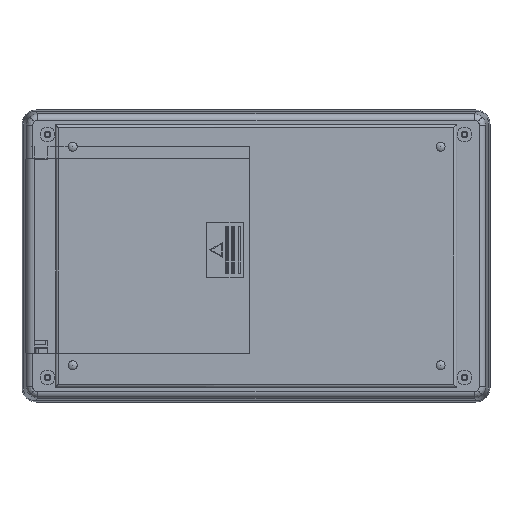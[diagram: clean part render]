
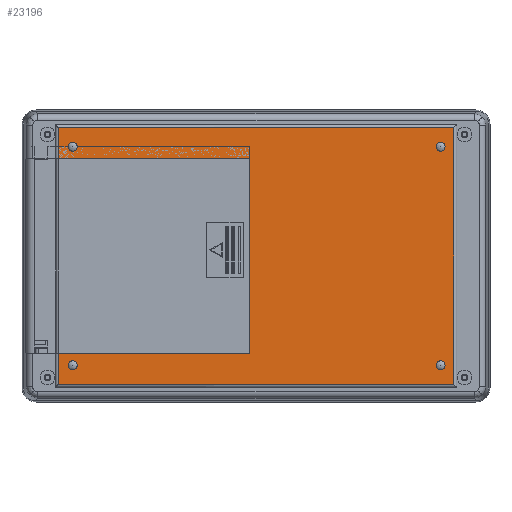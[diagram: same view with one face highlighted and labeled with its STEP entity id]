
A CAD part, front view. The second image highlights one B-rep face of the part: STEP entity #23196.
In plain terms, the highlighted planar face has unit normal (0, -1, 0).
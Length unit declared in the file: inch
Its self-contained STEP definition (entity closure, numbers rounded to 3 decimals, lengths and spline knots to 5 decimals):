
#521 = CARTESIAN_POINT ( 'NONE',  ( 2.27953, -0.70866, 1.29528 ) ) ;
#765 = DIRECTION ( 'NONE',  ( 0., 0., -1. ) ) ;
#800 = DIRECTION ( 'NONE',  ( 0., -1., 0. ) ) ;
#819 = CARTESIAN_POINT ( 'NONE',  ( -2.26378, -0.70866, -1.40551 ) ) ;
#995 = VERTEX_POINT ( 'NONE', #5732 ) ;
#1100 = EDGE_CURVE ( 'NONE', #2198, #5810, #13270, .T. ) ;
#1376 = ORIENTED_EDGE ( 'NONE', *, *, #15521, .T. ) ;
#1444 = EDGE_CURVE ( 'NONE', #21828, #11364, #21151, .T. ) ;
#1674 = CARTESIAN_POINT ( 'NONE',  ( -2.48031, -0.70866, 1.62402 ) ) ;
#1714 = ORIENTED_EDGE ( 'NONE', *, *, #15864, .F. ) ;
#1846 = EDGE_CURVE ( 'NONE', #13792, #6693, #3573, .T. ) ;
#2186 = DIRECTION ( 'NONE',  ( 1., 0., 0. ) ) ;
#2198 = VERTEX_POINT ( 'NONE', #15736 ) ;
#2284 = EDGE_LOOP ( 'NONE', ( #26576, #6337 ) ) ;
#2467 = ORIENTED_EDGE ( 'NONE', *, *, #27206, .F. ) ;
#2513 = VECTOR ( 'NONE', #10500, 39.37008 ) ;
#2760 = ORIENTED_EDGE ( 'NONE', *, *, #15145, .F. ) ;
#2804 = CARTESIAN_POINT ( 'NONE',  ( 2.48031, -0.70866, -1.58465 ) ) ;
#2941 = EDGE_CURVE ( 'NONE', #26413, #17128, #8114, .T. ) ;
#3124 = LINE ( 'NONE', #16860, #24994 ) ;
#3195 = EDGE_CURVE ( 'NONE', #11364, #2198, #13391, .T. ) ;
#3248 = CARTESIAN_POINT ( 'NONE',  ( -2.44094, -0.70866, 1.20079 ) ) ;
#3573 = CIRCLE ( 'NONE', #8840, 0.05512 ) ;
#3863 = FACE_BOUND ( 'NONE', #2284, .T. ) ;
#3885 = CARTESIAN_POINT ( 'NONE',  ( -2.44094, -0.70866, 1.58465 ) ) ;
#3926 = CARTESIAN_POINT ( 'NONE',  ( -2.26378, -0.70866, 1.35039 ) ) ;
#4186 = DIRECTION ( 'NONE',  ( 0., 0., -1. ) ) ;
#4190 = CIRCLE ( 'NONE', #8161, 0.05512 ) ;
#4590 = CARTESIAN_POINT ( 'NONE',  ( 2.27953, -0.70866, -1.35039 ) ) ;
#4952 = DIRECTION ( 'NONE',  ( 1., 0., 0. ) ) ;
#5386 = CIRCLE ( 'NONE', #24857, 0.05512 ) ;
#5415 = EDGE_CURVE ( 'NONE', #17128, #26406, #19832, .T. ) ;
#5547 = AXIS2_PLACEMENT_3D ( 'NONE', #4590, #19406, #6692 ) ;
#5569 = EDGE_CURVE ( 'NONE', #19947, #995, #5893, .T. ) ;
#5732 = CARTESIAN_POINT ( 'NONE',  ( 2.27953, -0.70866, 1.40551 ) ) ;
#5759 = CARTESIAN_POINT ( 'NONE',  ( -2.48031, -0.70866, 1.58465 ) ) ;
#5810 = VERTEX_POINT ( 'NONE', #3248 ) ;
#5893 = CIRCLE ( 'NONE', #13753, 0.05512 ) ;
#5898 = PLANE ( 'NONE',  #8649 ) ;
#5915 = CARTESIAN_POINT ( 'NONE',  ( -2.26378, -0.70866, -1.35039 ) ) ;
#5930 = ORIENTED_EDGE ( 'NONE', *, *, #5415, .T. ) ;
#5988 = CIRCLE ( 'NONE', #9253, 0.05512 ) ;
#6005 = CIRCLE ( 'NONE', #22859, 0.05512 ) ;
#6024 = DIRECTION ( 'NONE',  ( 0., 0., -1. ) ) ;
#6085 = CARTESIAN_POINT ( 'NONE',  ( 2.44094, -0.70866, -1.58465 ) ) ;
#6337 = ORIENTED_EDGE ( 'NONE', *, *, #5569, .F. ) ;
#6523 = ORIENTED_EDGE ( 'NONE', *, *, #3195, .F. ) ;
#6670 = CARTESIAN_POINT ( 'NONE',  ( 2.27953, -0.70866, 1.35039 ) ) ;
#6692 = DIRECTION ( 'NONE',  ( 0., 0., -1. ) ) ;
#6693 = VERTEX_POINT ( 'NONE', #16486 ) ;
#7041 = VECTOR ( 'NONE', #4952, 39.37008 ) ;
#7203 = VECTOR ( 'NONE', #2186, 39.37008 ) ;
#7617 = DIRECTION ( 'NONE',  ( 0., -1., 0. ) ) ;
#8004 = DIRECTION ( 'NONE',  ( 0., -1., 0. ) ) ;
#8026 = DIRECTION ( 'NONE',  ( 0., 0., -1. ) ) ;
#8114 = LINE ( 'NONE', #23216, #2513 ) ;
#8118 = CARTESIAN_POINT ( 'NONE',  ( 2.27953, -0.70866, -1.40551 ) ) ;
#8161 = AXIS2_PLACEMENT_3D ( 'NONE', #24987, #12263, #27099 ) ;
#8306 = DIRECTION ( 'NONE',  ( -1., 0., 0. ) ) ;
#8424 = VECTOR ( 'NONE', #23323, 39.37008 ) ;
#8649 = AXIS2_PLACEMENT_3D ( 'NONE', #1674, #8004, #22846 ) ;
#8790 = DIRECTION ( 'NONE',  ( 0., 0., -1. ) ) ;
#8840 = AXIS2_PLACEMENT_3D ( 'NONE', #3926, #18732, #6024 ) ;
#9253 = AXIS2_PLACEMENT_3D ( 'NONE', #5915, #20756, #8026 ) ;
#9948 = CARTESIAN_POINT ( 'NONE',  ( -2.44094, -0.70866, -1.58465 ) ) ;
#9988 = ORIENTED_EDGE ( 'NONE', *, *, #13369, .F. ) ;
#10121 = FACE_OUTER_BOUND ( 'NONE', #15751, .T. ) ;
#10412 = LINE ( 'NONE', #24037, #27332 ) ;
#10500 = DIRECTION ( 'NONE',  ( 0., 0., 1. ) ) ;
#10562 = CARTESIAN_POINT ( 'NONE',  ( -0.07874, -0.70866, -1.20079 ) ) ;
#10600 = CARTESIAN_POINT ( 'NONE',  ( -0.07874, -0.70866, -1.20079 ) ) ;
#10607 = CARTESIAN_POINT ( 'NONE',  ( -0.07874, -0.70866, -1.20079 ) ) ;
#11364 = VERTEX_POINT ( 'NONE', #10600 ) ;
#11512 = ORIENTED_EDGE ( 'NONE', *, *, #25121, .F. ) ;
#12263 = DIRECTION ( 'NONE',  ( 0., -1., 0. ) ) ;
#12651 = LINE ( 'NONE', #2804, #7041 ) ;
#12871 = CARTESIAN_POINT ( 'NONE',  ( -2.26378, -0.70866, 1.40551 ) ) ;
#13270 = LINE ( 'NONE', #27294, #18278 ) ;
#13369 = EDGE_CURVE ( 'NONE', #26724, #14892, #6005, .T. ) ;
#13391 = LINE ( 'NONE', #10607, #8424 ) ;
#13411 = DIRECTION ( 'NONE',  ( 0., -1., 0. ) ) ;
#13443 = CARTESIAN_POINT ( 'NONE',  ( -2.26378, -0.70866, -1.35039 ) ) ;
#13753 = AXIS2_PLACEMENT_3D ( 'NONE', #6670, #21511, #8790 ) ;
#13792 = VERTEX_POINT ( 'NONE', #12871 ) ;
#14160 = VECTOR ( 'NONE', #24837, 39.37008 ) ;
#14203 = EDGE_CURVE ( 'NONE', #995, #19947, #22462, .T. ) ;
#14892 = VERTEX_POINT ( 'NONE', #22571 ) ;
#15064 = ORIENTED_EDGE ( 'NONE', *, *, #1444, .F. ) ;
#15085 = FACE_BOUND ( 'NONE', #22739, .T. ) ;
#15145 = EDGE_CURVE ( 'NONE', #24320, #20858, #4190, .T. ) ;
#15521 = EDGE_CURVE ( 'NONE', #26406, #5810, #10412, .T. ) ;
#15577 = DIRECTION ( 'NONE',  ( 0., 0., -1. ) ) ;
#15736 = CARTESIAN_POINT ( 'NONE',  ( -0.07874, -0.70866, 1.20079 ) ) ;
#15751 = EDGE_LOOP ( 'NONE', ( #26805, #6523, #15064, #21639, #25071, #25840, #5930, #1376 ) ) ;
#15864 = EDGE_CURVE ( 'NONE', #20858, #24320, #18065, .T. ) ;
#16029 = CARTESIAN_POINT ( 'NONE',  ( 2.44094, -0.70866, 1.58465 ) ) ;
#16305 = EDGE_CURVE ( 'NONE', #21828, #17816, #3124, .T. ) ;
#16486 = CARTESIAN_POINT ( 'NONE',  ( -2.26378, -0.70866, 1.29528 ) ) ;
#16860 = CARTESIAN_POINT ( 'NONE',  ( -2.44094, -0.70866, -1.62402 ) ) ;
#16968 = EDGE_CURVE ( 'NONE', #17816, #26413, #12651, .T. ) ;
#17128 = VERTEX_POINT ( 'NONE', #16029 ) ;
#17816 = VERTEX_POINT ( 'NONE', #9948 ) ;
#17918 = AXIS2_PLACEMENT_3D ( 'NONE', #26108, #13411, #765 ) ;
#18065 = CIRCLE ( 'NONE', #5547, 0.05512 ) ;
#18278 = VECTOR ( 'NONE', #8306, 39.37008 ) ;
#18732 = DIRECTION ( 'NONE',  ( 0., -1., 0. ) ) ;
#19406 = DIRECTION ( 'NONE',  ( 0., -1., 0. ) ) ;
#19832 = LINE ( 'NONE', #5759, #14160 ) ;
#19947 = VERTEX_POINT ( 'NONE', #521 ) ;
#20083 = FACE_BOUND ( 'NONE', #21706, .T. ) ;
#20332 = CARTESIAN_POINT ( 'NONE',  ( -2.26378, -0.70866, 1.35039 ) ) ;
#20756 = DIRECTION ( 'NONE',  ( 0., -1., 0. ) ) ;
#20858 = VERTEX_POINT ( 'NONE', #8118 ) ;
#21151 = LINE ( 'NONE', #10562, #7203 ) ;
#21498 = CARTESIAN_POINT ( 'NONE',  ( 2.27953, -0.70866, -1.29528 ) ) ;
#21511 = DIRECTION ( 'NONE',  ( 0., -1., 0. ) ) ;
#21630 = CARTESIAN_POINT ( 'NONE',  ( -2.44094, -0.70866, -1.20079 ) ) ;
#21639 = ORIENTED_EDGE ( 'NONE', *, *, #16305, .T. ) ;
#21706 = EDGE_LOOP ( 'NONE', ( #22904, #11512 ) ) ;
#21828 = VERTEX_POINT ( 'NONE', #21630 ) ;
#22456 = DIRECTION ( 'NONE',  ( 0., 0., -1. ) ) ;
#22462 = CIRCLE ( 'NONE', #17918, 0.05512 ) ;
#22571 = CARTESIAN_POINT ( 'NONE',  ( -2.26378, -0.70866, -1.29528 ) ) ;
#22739 = EDGE_LOOP ( 'NONE', ( #2760, #1714 ) ) ;
#22846 = DIRECTION ( 'NONE',  ( 0., 0., -1. ) ) ;
#22859 = AXIS2_PLACEMENT_3D ( 'NONE', #13443, #800, #15577 ) ;
#22904 = ORIENTED_EDGE ( 'NONE', *, *, #1846, .F. ) ;
#23196 = ADVANCED_FACE ( 'NONE', ( #3863, #10121, #15085, #25690, #20083 ), #5898, .T. ) ;
#23216 = CARTESIAN_POINT ( 'NONE',  ( 2.44094, -0.70866, 1.62402 ) ) ;
#23323 = DIRECTION ( 'NONE',  ( 0., 0., 1. ) ) ;
#24037 = CARTESIAN_POINT ( 'NONE',  ( -2.44094, -0.70866, -1.62402 ) ) ;
#24320 = VERTEX_POINT ( 'NONE', #21498 ) ;
#24379 = EDGE_LOOP ( 'NONE', ( #2467, #9988 ) ) ;
#24837 = DIRECTION ( 'NONE',  ( -1., 0., 0. ) ) ;
#24857 = AXIS2_PLACEMENT_3D ( 'NONE', #20332, #7617, #22456 ) ;
#24987 = CARTESIAN_POINT ( 'NONE',  ( 2.27953, -0.70866, -1.35039 ) ) ;
#24994 = VECTOR ( 'NONE', #4186, 39.37008 ) ;
#25071 = ORIENTED_EDGE ( 'NONE', *, *, #16968, .T. ) ;
#25121 = EDGE_CURVE ( 'NONE', #6693, #13792, #5386, .T. ) ;
#25690 = FACE_BOUND ( 'NONE', #24379, .T. ) ;
#25840 = ORIENTED_EDGE ( 'NONE', *, *, #2941, .T. ) ;
#26108 = CARTESIAN_POINT ( 'NONE',  ( 2.27953, -0.70866, 1.35039 ) ) ;
#26150 = DIRECTION ( 'NONE',  ( 0., 0., -1. ) ) ;
#26406 = VERTEX_POINT ( 'NONE', #3885 ) ;
#26413 = VERTEX_POINT ( 'NONE', #6085 ) ;
#26576 = ORIENTED_EDGE ( 'NONE', *, *, #14203, .F. ) ;
#26724 = VERTEX_POINT ( 'NONE', #819 ) ;
#26805 = ORIENTED_EDGE ( 'NONE', *, *, #1100, .F. ) ;
#27099 = DIRECTION ( 'NONE',  ( 0., 0., -1. ) ) ;
#27206 = EDGE_CURVE ( 'NONE', #14892, #26724, #5988, .T. ) ;
#27294 = CARTESIAN_POINT ( 'NONE',  ( -0.07874, -0.70866, 1.20079 ) ) ;
#27332 = VECTOR ( 'NONE', #26150, 39.37008 ) ;
